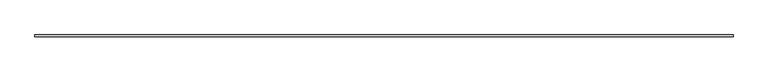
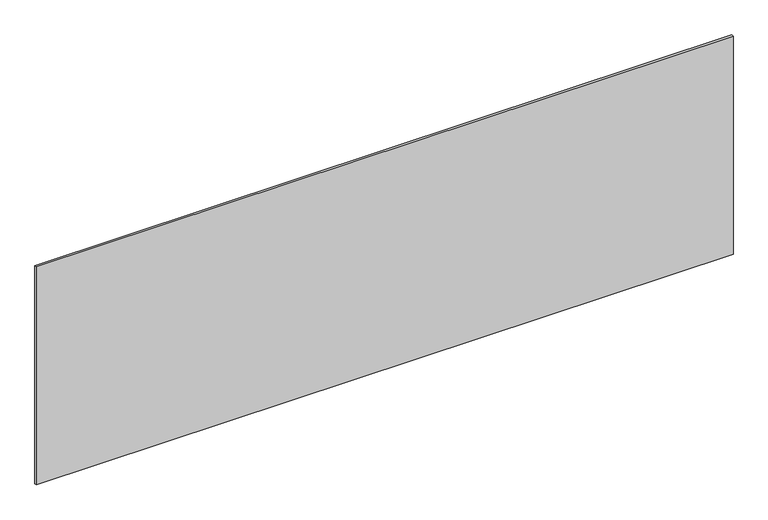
"""IFC4 building model written with IfcOpenShell, lengths in millimetres: plate geometry, システム パネル : 標準."""

import ifcopenshell
import ifcopenshell.guid

model = None  # the IFC model being written
_history = None  # IfcOwnerHistory: only IFC2X3 demands one
_inside = {}  # id of a spatial element -> (the spatial element, [elements in it])
_under = {}  # id of a project, library or spatial element -> (it, [spatial elements below it])
_declared = {}  # id of a project -> (the project, [libraries it declares])
_typed = {}  # id of a type object -> (the type object, [elements of that type])
_made_of = {}  # id of a material, layer set ... -> (it, [elements and type objects made of it])


def new_model(schema):
    """Start an empty IFC model of exactly this schema.

    Asked for "IFC4X3", IfcOpenShell would pick the latest addendum, in which some entities
    have other attributes; the version numbers below select the first issue.
    IFC2X3 requires an IfcOwnerHistory on every rooted entity: one is made here for all.
    """
    global model, _history
    if schema == "IFC4X3":
        model = ifcopenshell.file(schema_version=(4, 3, 0, 0))
    else:
        model = ifcopenshell.file(schema=schema)
    _inside.clear()
    _under.clear()
    _declared.clear()
    _typed.clear()
    _made_of.clear()
    _history = None
    if model.schema == "IFC2X3":
        org = make("IfcOrganization", Name="unknown")
        user = make(
            "IfcPersonAndOrganization",
            ThePerson=make("IfcPerson", FamilyName="unknown"),
            TheOrganization=org,
        )
        app = make(
            "IfcApplication",
            ApplicationDeveloper=org,
            Version="unknown",
            ApplicationFullName="unknown",
            ApplicationIdentifier="unknown",
        )
        _history = make(
            "IfcOwnerHistory",
            OwningUser=user,
            OwningApplication=app,
            ChangeAction="ADDED",
            CreationDate=0,
        )
    return model


def make(cls, **values):
    """One entity of the class cls with the attributes given. An attribute that is None is left unset."""
    return model.create_entity(
        cls, **{name: value for name, value in values.items() if value is not None}
    )


def rooted(cls, **values):
    """An entity with a GlobalId (a new one), such as an element, a storey or a relation."""
    return make(cls, GlobalId=ifcopenshell.guid.new(), OwnerHistory=_history, **values)


def si_unit(unit_type, name, prefix=None):
    """IfcSIUnit, for example si_unit("LENGTHUNIT", "METRE", prefix="MILLI")."""
    return make("IfcSIUnit", UnitType=unit_type, Prefix=prefix, Name=name)


def assignment(units):
    """IfcUnitAssignment: the units of a project."""
    return None if units is None else make("IfcUnitAssignment", Units=units)


def point(xyz):
    """IfcCartesianPoint."""
    return None if xyz is None else make("IfcCartesianPoint", Coordinates=xyz)


def direction(xyz):
    """IfcDirection."""
    return None if xyz is None else make("IfcDirection", DirectionRatios=xyz)


def frame(location, z_axis=None, x_axis=None):
    """IfcAxis2Placement3D, a coordinate frame: its origin and axes. An axis left out is left unset."""
    return make(
        "IfcAxis2Placement3D",
        Location=point(location),
        Axis=direction(z_axis),
        RefDirection=direction(x_axis),
    )


def origin():
    """The frame at (0, 0, 0) with its axes left unset."""
    return frame((0.0, 0.0, 0.0))


def origin_with_axes():
    """The frame at (0, 0, 0) with the z axis (0, 0, 1) and the x axis (1, 0, 0) written out."""
    return frame((0.0, 0.0, 0.0), z_axis=(0.0, 0.0, 1.0), x_axis=(1.0, 0.0, 0.0))


def place(relative_to, where):
    """IfcLocalPlacement: puts the frame where relative to a parent placement (None: the world)."""
    return make(
        "IfcLocalPlacement", PlacementRelTo=relative_to, RelativePlacement=where
    )


def context(
    kind, dimensions, precision=None, world=None, true_north=None, identifier=None
):
    """IfcGeometricRepresentationContext, for example the 3D "Model" context."""
    return make(
        "IfcGeometricRepresentationContext",
        ContextIdentifier=identifier,
        ContextType=kind,
        CoordinateSpaceDimension=dimensions,
        Precision=precision,
        WorldCoordinateSystem=world,
        TrueNorth=true_north,
    )


def project(units=None, contexts=None):
    """IfcProject with its units and contexts."""
    return rooted(
        "IfcProject",
        Name="project",
        RepresentationContexts=contexts,
        UnitsInContext=assignment(units),
    )


def spatial(cls, under=None, at=None, **own):
    """A site, building, storey or space (cls), placed at a placement, below another one or the project."""
    s = rooted(cls, ObjectPlacement=at, **own)
    if under is not None:
        _under.setdefault(under.id(), (under, []))[1].append(s)
    return s


def polyline(points):
    """IfcPolyline through the points."""
    return make("IfcPolyline", Points=[point(p) for p in points])


def outline(outer, holes=None, kind="AREA"):
    """IfcArbitraryClosedProfileDef: a profile drawn as a closed curve; with holes, ...WithVoids."""
    if holes is None:
        return make("IfcArbitraryClosedProfileDef", ProfileType=kind, OuterCurve=outer)
    return make(
        "IfcArbitraryProfileDefWithVoids",
        ProfileType=kind,
        OuterCurve=outer,
        InnerCurves=holes,
    )


def extrude(swept, where, along, depth):
    """IfcExtrudedAreaSolid: the profile swept, set in the frame where, extruded along a direction by depth."""
    return make(
        "IfcExtrudedAreaSolid",
        SweptArea=swept,
        Position=where,
        ExtrudedDirection=direction(along),
        Depth=depth,
    )


def shape(context_of_items, identifier, shape_type, items):
    """IfcShapeRepresentation: the items that make up one representation, for example the "Body"."""
    return make(
        "IfcShapeRepresentation",
        ContextOfItems=context_of_items,
        RepresentationIdentifier=identifier,
        RepresentationType=shape_type,
        Items=items,
    )


def source(mapping_origin, context_of_items, identifier, shape_type, items):
    """IfcRepresentationMap: a shape defined once, which mapped items show again and again."""
    return make(
        "IfcRepresentationMap",
        MappingOrigin=mapping_origin,
        MappedRepresentation=shape(context_of_items, identifier, shape_type, items),
    )


def transform(
    local_origin,
    x_axis=None,
    y_axis=None,
    z_axis=None,
    scale=None,
    scale2=None,
    scale3=None,
    uniform=True,
):
    """IfcCartesianTransformationOperator3D, or its non-uniform kind. x_axis, y_axis, z_axis: its Axis1, 2, 3."""
    if uniform:
        return make(
            "IfcCartesianTransformationOperator3D",
            Axis1=direction(x_axis),
            Axis2=direction(y_axis),
            LocalOrigin=point(local_origin),
            Scale=scale,
            Axis3=direction(z_axis),
        )
    return make(
        "IfcCartesianTransformationOperator3DnonUniform",
        Axis1=direction(x_axis),
        Axis2=direction(y_axis),
        LocalOrigin=point(local_origin),
        Scale=scale,
        Axis3=direction(z_axis),
        Scale2=scale2,
        Scale3=scale3,
    )


def mapped(mapping_source, mapping_target):
    """IfcMappedItem: shows the shape of a source again, moved by a transform."""
    return make(
        "IfcMappedItem", MappingSource=mapping_source, MappingTarget=mapping_target
    )


def made_of(thing, what):
    """Note that an element or type object is made of a material, layer set ...; save() writes the relation."""
    if what is not None:
        _made_of.setdefault(what.id(), (what, []))[1].append(thing)
    return thing


def element(
    cls,
    number,
    at=None,
    inside=None,
    cuts=None,
    type_object=None,
    material=None,
    context=None,
    identifier="Body",
    shape_type=None,
    held_by="IfcProductDefinitionShape",
    body=None,
    shapes=None,
    **own,
):
    """One element of the class cls, such as IfcWall. Its Tag is "e" and its number.

    at: its placement. inside: the storey or other place that contains it. cuts: it is an
    opening in that element (IfcRelVoidsElement). A single representation is given by context,
    identifier, shape_type and body (its items); several are given by shapes. held_by: the class
    of the entity that holds the representations. save() writes the other relations.
    """
    e = rooted(cls, Tag="e%d" % number, ObjectPlacement=at, **own)
    if body is not None:
        shapes = [shape(context, identifier, shape_type, body)]
    if shapes is not None:
        e.Representation = make(held_by, Representations=shapes)
    if inside is not None:
        _inside.setdefault(inside.id(), (inside, []))[1].append(e)
    if cuts is not None:
        rooted(
            "IfcRelVoidsElement", RelatingBuildingElement=cuts, RelatedOpeningElement=e
        )
    if type_object is not None:
        _typed.setdefault(type_object.id(), (type_object, []))[1].append(e)
    return made_of(e, material)


def aggregate(whole, parts):
    """IfcRelAggregates: a whole, such as a stair, and the parts it consists of."""
    return rooted("IfcRelAggregates", RelatingObject=whole, RelatedObjects=parts)


def save(model, path):
    """Write the relations noted so far, then the file.

    IfcRelAggregates (storeys below a building ...), IfcRelContainedInSpatialStructure (elements
    in a storey), IfcRelDefinesByType, IfcRelAssociatesMaterial and IfcRelDeclares: one each for
    every whole, place, type object, material and project.
    """
    for whole, parts in _under.values():
        aggregate(whole, parts)
    for where, things in _inside.values():
        rooted(
            "IfcRelContainedInSpatialStructure",
            RelatedElements=things,
            RelatingStructure=where,
        )
    for kind, things in _typed.values():
        rooted("IfcRelDefinesByType", RelatedObjects=things, RelatingType=kind)
    for what, things in _made_of.values():
        rooted("IfcRelAssociatesMaterial", RelatedObjects=things, RelatingMaterial=what)
    for by, libraries in _declared.values():
        rooted("IfcRelDeclares", RelatingContext=by, RelatedDefinitions=libraries)
    model.write(path)


def plate_c254f2f1(model_context):
    return source(origin(), model_context, "Body", "SweptSolid", [
        extrude(outline(polyline([(1715.0, -5.0), (-1715.0, -5.0), (-1715.0, 5.0), (1715.0, 5.0), (1715.0, -5.0)])), origin_with_axes(), (0.0, 0.0, 1.0), 1134.4393141),
    ])


if __name__ == "__main__":
    model = new_model("IFC4")
    model_context = context("Model", 3, world=origin())
    ifc_project = project(units=[si_unit("LENGTHUNIT", "METRE", prefix="MILLI")], contexts=[model_context])
    site = spatial("IfcSite", under=ifc_project)
    building = spatial("IfcBuilding", under=site)
    placement = place(None, origin())
    plate_shape = plate_c254f2f1(model_context)
    element("IfcPlate", 1, ObjectType="システム パネル : 標準", at=placement, inside=building, context=model_context, shape_type="MappedRepresentation", body=[
        mapped(plate_shape, transform((0.0, 0.0, 0.0), x_axis=(1.0, 0.0, 0.0), y_axis=(0.0, 1.0, 0.0), z_axis=(0.0, 0.0, 1.0))),
    ])
    save(model, "model.ifc")
